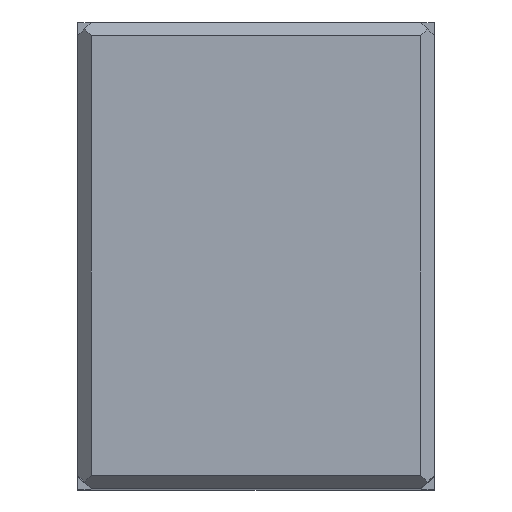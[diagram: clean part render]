
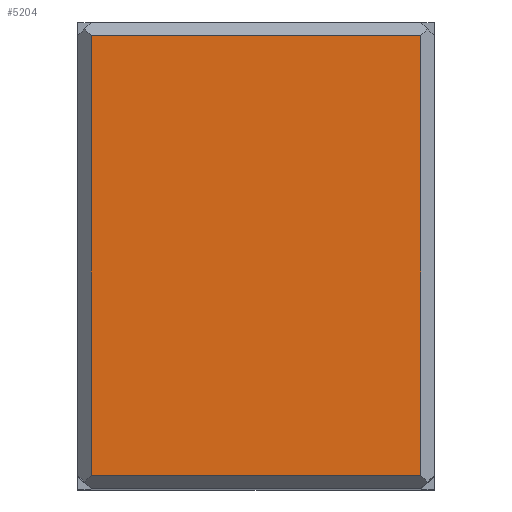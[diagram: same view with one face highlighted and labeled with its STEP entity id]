
A CAD part, top view. The second image highlights one B-rep face of the part: STEP entity #5204.
In plain terms, the highlighted planar face has unit normal (0, 0, 1).
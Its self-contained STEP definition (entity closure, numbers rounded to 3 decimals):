
#48 = CARTESIAN_POINT ( 'NONE',  ( 9.7, 13.75, 35. ) ) ;
#139 = AXIS2_PLACEMENT_3D ( 'NONE', #4112, #3321, #1624 ) ;
#423 = DIRECTION ( 'NONE',  ( 1., 0., 0. ) ) ;
#676 = EDGE_CURVE ( 'NONE', #2652, #5162, #1079, .T. ) ;
#995 = VECTOR ( 'NONE', #423, 1000. ) ;
#1064 = CARTESIAN_POINT ( 'NONE',  ( -10.5, 12.95, 35. ) ) ;
#1079 = LINE ( 'NONE', #48, #3481 ) ;
#1213 = DIRECTION ( 'NONE',  ( 0., -1., 0. ) ) ;
#1226 = PLANE ( 'NONE',  #139 ) ;
#1247 = ORIENTED_EDGE ( 'NONE', *, *, #676, .T. ) ;
#1271 = VERTEX_POINT ( 'NONE', #1596 ) ;
#1511 = VECTOR ( 'NONE', #5185, 1000. ) ;
#1596 = CARTESIAN_POINT ( 'NONE',  ( -9.7, 12.95, 35. ) ) ;
#1624 = DIRECTION ( 'NONE',  ( 1., 0., 0. ) ) ;
#1685 = VERTEX_POINT ( 'NONE', #4117 ) ;
#1727 = VECTOR ( 'NONE', #1213, 1000. ) ;
#2108 = ORIENTED_EDGE ( 'NONE', *, *, #3937, .T. ) ;
#2264 = ORIENTED_EDGE ( 'NONE', *, *, #2434, .T. ) ;
#2434 = EDGE_CURVE ( 'NONE', #5162, #1271, #3205, .T. ) ;
#2652 = VERTEX_POINT ( 'NONE', #3316 ) ;
#2874 = CARTESIAN_POINT ( 'NONE',  ( 10.5, -12.95, 35. ) ) ;
#3205 = LINE ( 'NONE', #1064, #1511 ) ;
#3316 = CARTESIAN_POINT ( 'NONE',  ( 9.7, -12.95, 35. ) ) ;
#3321 = DIRECTION ( 'NONE',  ( 0., 0., 1. ) ) ;
#3458 = LINE ( 'NONE', #2874, #995 ) ;
#3481 = VECTOR ( 'NONE', #4618, 1000. ) ;
#3732 = CARTESIAN_POINT ( 'NONE',  ( -9.7, -13.75, 35. ) ) ;
#3920 = EDGE_LOOP ( 'NONE', ( #1247, #2264, #4463, #2108 ) ) ;
#3937 = EDGE_CURVE ( 'NONE', #1685, #2652, #3458, .T. ) ;
#4112 = CARTESIAN_POINT ( 'NONE',  ( 0., 0., 35. ) ) ;
#4117 = CARTESIAN_POINT ( 'NONE',  ( -9.7, -12.95, 35. ) ) ;
#4154 = CARTESIAN_POINT ( 'NONE',  ( 9.7, 12.95, 35. ) ) ;
#4428 = FACE_OUTER_BOUND ( 'NONE', #3920, .T. ) ;
#4463 = ORIENTED_EDGE ( 'NONE', *, *, #4528, .T. ) ;
#4521 = LINE ( 'NONE', #3732, #1727 ) ;
#4528 = EDGE_CURVE ( 'NONE', #1271, #1685, #4521, .T. ) ;
#4618 = DIRECTION ( 'NONE',  ( 0., 1., 0. ) ) ;
#5162 = VERTEX_POINT ( 'NONE', #4154 ) ;
#5185 = DIRECTION ( 'NONE',  ( -1., 0., 0. ) ) ;
#5204 = ADVANCED_FACE ( 'NONE', ( #4428 ), #1226, .T. ) ;
